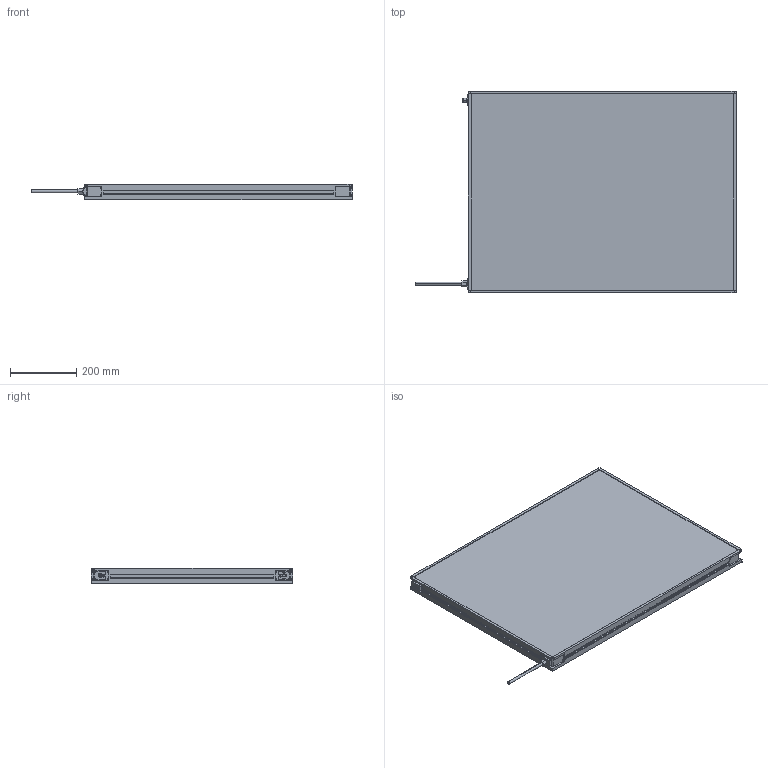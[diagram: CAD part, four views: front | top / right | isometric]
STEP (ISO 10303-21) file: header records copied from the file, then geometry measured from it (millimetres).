
FILE_DESCRIPTION (( 'STEP AP214' ), '1' );
FILE_NAME ('MBACK-xxxx-xxx-M1A2_CLIENT600x800.STEP', '2022-04-01T11:47:37', ( '' ), ( '' ), 'SwSTEP 2.0', 'SolidWorks 2020', '' );
FILE_SCHEMA (( 'AUTOMOTIVE_DESIGN' ));
Length unit declared in the file: millimetre
Products named in the file (1): MBACK-xxxx-xxx-M1A2_CLIENT600x800
Bounding box: 967.4 x 608 x 45.5 mm (x, y, z)
Volume: 20452272.9 mm3; surface area: 1176517 mm2
Topology: 1 solids, 1 shells, 470 faces, 1210 edges, 804 vertices
Faces by surface type: plane 265, cylinder 117, bspline 80, cone 8
Entity records: 18046 total; most frequent: CARTESIAN_POINT 6837, ORIENTED_EDGE 2420, DIRECTION 2082, EDGE_CURVE 1210, VERTEX_POINT 804, LINE 800, VECTOR 800, AXIS2_PLACEMENT_3D 641
